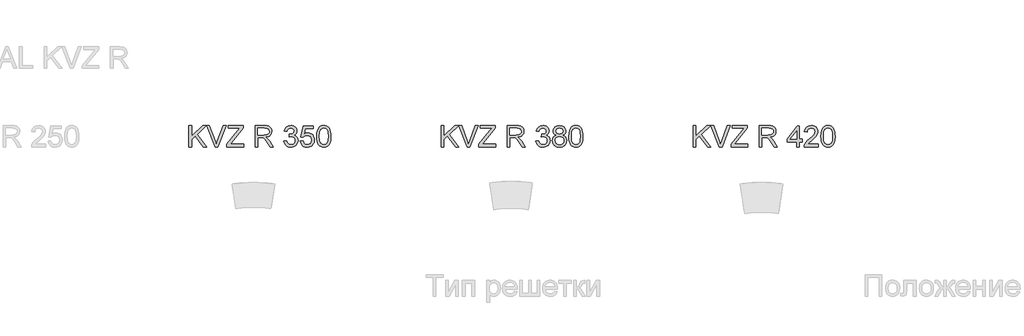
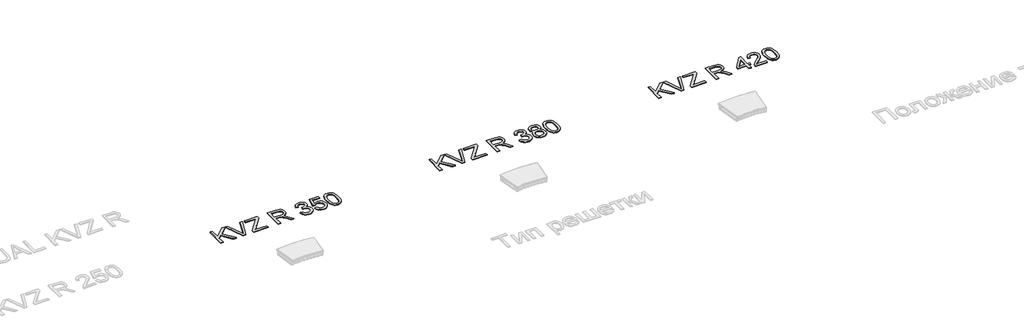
# One storey, part 9 of 9: 3 proxies.
"""IFC4 building model written with IfcOpenShell, lengths in millimetres."""

from ifc_helpers import new_model, si_unit, origin, origin_with_axes, place, context, project, spatial, polyline, outline, extrude, element, save

model = new_model("IFC4")

# Units and contexts
model_context = context("Model", 3, world=origin())
ifc_project = project(units=[si_unit("LENGTHUNIT", "METRE", prefix="MILLI")], contexts=[model_context])

# Site, building, storey
site = spatial("IfcSite", under=ifc_project)
building = spatial("IfcBuilding", under=site)
storey = spatial("IfcBuildingStorey", under=building, Name="Уровень 1", Elevation=0.0)

# Proxies
placement = place(None, origin())
element("IfcBuildingElementProxy", 1, Name="Текст модели 1", ObjectType="Текст модели 1", at=placement, inside=storey, context=model_context, shape_type="SweptSolid", body=[
    extrude(outline(polyline([(4574.2572214, 251.120589), (4574.2572214, 552.4895194), (4611.9283377, 552.4895194), (4611.9283377, 404.9688394), (4766.4387756, 552.4895194), (4819.1194773, 552.4895194), (4689.4042858, 428.5868634), (4823.8283669, 251.120589), (4777.7695411, 251.120589), (4662.696053, 403.1294294), (4611.9283377, 354.7161588), (4611.9283377, 251.120589), (4574.2572214, 251.120589)])), origin_with_axes(), (0.0, 0.0, 1.0), 10.0),
    extrude(outline(polyline([(4941.1091469, 251.120589), (4821.1796165, 552.4895194), (4861.4994832, 552.4895194), (4941.7713345, 335.3655659), (4958.0317187, 286.4372605), (4974.0713737, 335.3655659), (5054.5639543, 552.4895194), (5094.8838209, 552.4895194), (4980.031062, 251.120589), (4941.1091469, 251.120589)])), origin_with_axes(), (0.0, 0.0, 1.0), 10.0),
    extrude(outline(polyline([(5106.3617392, 251.120589), (5106.3617392, 290.1896569), (5260.5042952, 478.9131204), (5289.787702, 514.8184031), (5125.1972973, 514.8184031), (5125.1972973, 552.4895194), (5337.0973266, 552.4895194), (5337.0973266, 514.8184031), (5168.3866436, 308.289451), (5152.4941414, 288.7917053), (5341.8062161, 288.7917053), (5341.8062161, 251.120589), (5106.3617392, 251.120589)])), origin_with_axes(), (0.0, 0.0, 1.0), 10.0),
    extrude(outline(polyline([(5501.9084604, 251.120589), (5501.9084604, 552.4895194), (5631.7708047, 552.4895194), (5666.673609, 550.4569714), (5692.0666637, 544.3593273), (5710.6263104, 533.1021383), (5725.0288905, 515.5909553), (5734.2719256, 493.8767205), (5737.3529373, 470.0103761), (5732.2485746, 440.3222991), (5716.9354866, 415.7109936), (5705.3357074, 405.6816107), (5690.9538207, 397.6663817), (5653.8437244, 387.6783856), (5675.2544565, 371.5651542), (5705.7886621, 332.7903919), (5756.0413427, 251.120589), (5712.2633852, 251.120589), (5673.0471646, 313.5869517), (5644.7202509, 354.936888), (5624.817835, 374.471422), (5606.9019818, 381.6451209), (5585.0497913, 382.969496), (5539.5795767, 382.969496), (5539.5795767, 251.120589), (5501.9084604, 251.120589)]), holes=[polyline([(5539.5795767, 420.6406123), (5623.89813, 420.6406123), (5648.1139623, 421.9741846), (5666.9035352, 425.9749013), (5681.0485979, 432.9094769), (5691.3308997, 443.0446259), (5697.5940907, 455.3042933), (5699.681821, 468.6124245), (5695.6994984, 486.9881302), (5683.7525306, 501.7953805), (5663.1971241, 511.5626475), (5633.3894855, 514.8184031), (5539.5795767, 514.8184031), (5539.5795767, 420.6406123)])]), origin_with_axes(), (0.0, 0.0, 1.0), 10.0),
    extrude(outline(polyline([(5906.8729607, 331.1717111), (5944.544077, 335.8806007), (5952.9777717, 312.2073943), (5965.3294097, 296.2229216), (5982.2059962, 287.1178422), (6004.2145366, 284.0828157), (6030.0398527, 288.2582764), (6049.9790568, 300.7846583), (6062.7261679, 319.4730637), (6066.975205, 342.1345946), (6062.7629561, 363.6464942), (6050.1262096, 381.0932979), (6030.9963459, 392.6539896), (6007.3047454, 396.5075535), (5980.8908181, 392.3872751), (5985.0846729, 430.0583914), (5991.1179376, 429.616933), (6013.687498, 432.3208657), (6033.8658254, 440.4326637), (6048.1028586, 454.1546621), (6052.8485364, 473.6891961), (6049.4088397, 489.9587773), (6039.0897498, 503.1565439), (6023.3444004, 511.9029383), (6003.6259254, 514.8184031), (5983.8706623, 511.8753471), (5967.7206427, 503.0461793), (5955.9300247, 488.3308995), (5949.2529665, 467.7295077), (5911.5818502, 472.4383973), (5922.6734924, 506.2651467), (5942.4103614, 531.5202457), (5969.4128999, 547.247201), (6002.3015502, 552.4895194), (6025.9839537, 549.9051484), (6047.7349766, 542.1520354), (6066.0738941, 529.919959), (6079.519981, 513.8986981), (6087.7697348, 495.440219), (6090.5196527, 475.896488), (6087.9076905, 457.6863293), (6080.071804, 441.1684277), (6067.1223578, 427.0969414), (6049.1697164, 416.2260284), (6072.7509523, 406.6978847), (6090.2253471, 390.4742887), (6101.0410777, 368.4381572), (6104.6463213, 341.472407), (6102.8436995, 322.3609373), (6097.4358342, 304.7577839), (6088.4227253, 288.6629466), (6075.8043729, 274.0764255), (6060.431504, 261.9731078), (6043.1548458, 253.3278809), (6023.9743983, 248.1407448), (6002.8901614, 246.4116994), (5983.8338741, 247.8878259), (5966.4698439, 252.3162055), (5950.7980709, 259.696838), (5936.8185551, 270.0297235), (5925.096915, 282.7078568), (5916.1987693, 297.1242325), (5910.1241178, 313.2788506), (5906.8729607, 331.1717111)])), origin_with_axes(), (0.0, 0.0, 1.0), 10.0),
    extrude(outline(polyline([(6137.6085481, 331.1717111), (6175.2796644, 335.8806007), (6182.1958459, 313.265055), (6194.2623753, 297.0690502), (6211.4240704, 287.3293743), (6233.6257488, 284.0828157), (6260.6282872, 288.5985672), (6280.861797, 302.1458217), (6293.4985435, 323.1610807), (6297.7107924, 350.0808457), (6293.765258, 375.4279151), (6281.9286548, 394.8152963), (6262.1090123, 407.120949), (6234.21436, 411.2228333), (6215.9398219, 409.5857584), (6201.1417686, 404.6745338), (6179.9885539, 387.6783856), (6142.3174376, 392.3872751), (6175.2796644, 547.7806299), (6321.2552401, 547.7806299), (6321.2552401, 510.1095136), (6205.7402936, 510.1095136), (6189.6270622, 427.1153355), (6216.5376301, 443.449296), (6244.7357851, 448.8939496), (6263.0816003, 447.2062909), (6279.9328949, 442.143315), (6295.289669, 433.7050217), (6309.1519224, 421.8914111), (6320.6275414, 407.4244517), (6328.8244121, 391.0261117), (6333.7425345, 372.6963913), (6335.3819087, 352.4352904), (6329.4774026, 314.7641741), (6322.0967701, 297.9703611), (6311.7638846, 282.5377114), (6296.1105057, 266.7325811), (6277.8451646, 255.4432024), (6256.9678614, 248.6695752), (6233.478596, 246.4116994), (6196.4788643, 252.2150379), (6180.8001936, 259.469211), (6167.0023195, 269.6250533), (6155.522102, 282.1767271), (6146.7964009, 296.6183947), (6137.6085481, 331.1717111)])), origin_with_axes(), (0.0, 0.0, 1.0), 10.0),
    extrude(outline(polyline([(6368.3441354, 399.377033), (6371.1124474, 447.6155596), (6379.4173835, 486.0868193), (6393.1761701, 515.3794232), (6412.3060339, 536.0819824), (6436.9449305, 548.3876352), (6467.2308157, 552.4895194), (6490.4441696, 550.0614982), (6511.2295024, 542.7774347), (6528.6119266, 530.9224375), (6541.6165552, 514.7816149), (6551.4390044, 494.4929229), (6559.2748909, 470.1943171), (6564.4068448, 439.3382148), (6566.117496, 399.377033), (6563.3767752, 351.4144179), (6555.1546126, 313.0351288), (6541.4785994, 283.7149337), (6522.3763268, 262.929601), (6497.6822479, 250.5411748), (6467.2308157, 246.4116994), (6446.4822712, 248.2051242), (6428.0881715, 253.5853983), (6412.0485165, 262.552522), (6398.3633062, 275.1064951), (6385.229919, 297.8002156), (6375.8489281, 326.0765455), (6370.2203336, 359.9354846), (6368.3441354, 399.377033)]), holes=[polyline([(6406.0152517, 399.4506094), (6410.4298357, 340.1940171), (6415.9480656, 319.9260184), (6423.6735875, 305.8982181), (6443.3920625, 289.5366663), (6467.2308157, 284.0828157), (6491.069569, 289.5550604), (6510.788044, 305.9717944), (6518.5135659, 320.0225874), (6524.0317958, 340.2859875), (6528.4463797, 399.4506094), (6524.1789486, 457.3736296), (6518.8446597, 477.5749496), (6511.3766552, 491.936143), (6491.6949684, 509.0978381), (6466.7893573, 514.8184031), (6443.2081215, 509.7784198), (6424.2621987, 494.6584698), (6416.2791594, 479.023485), (6410.5769885, 457.9438467), (6406.0152517, 399.4506094)])]), origin_with_axes(), (0.0, 0.0, 1.0), 10.0),
])
element("IfcBuildingElementProxy", 2, Name="Текст модели 1", ObjectType="Текст модели 1", at=placement, inside=storey, context=model_context, shape_type="SweptSolid", body=[
    extrude(outline(polyline([(8113.2063914, 251.120589), (8113.2063914, 552.4895194), (8150.8775077, 552.4895194), (8150.8775077, 404.9688394), (8305.3879457, 552.4895194), (8358.0686474, 552.4895194), (8228.3534559, 428.5868634), (8362.777537, 251.120589), (8316.7187112, 251.120589), (8201.6452231, 403.1294294), (8150.8775077, 354.7161588), (8150.8775077, 251.120589), (8113.2063914, 251.120589)])), origin_with_axes(), (0.0, 0.0, 1.0), 10.0),
    extrude(outline(polyline([(8480.058317, 251.120589), (8360.1287866, 552.4895194), (8400.4486533, 552.4895194), (8480.7205046, 335.3655659), (8496.9808888, 286.4372605), (8513.0205438, 335.3655659), (8593.5131243, 552.4895194), (8633.832991, 552.4895194), (8518.9802321, 251.120589), (8480.058317, 251.120589)])), origin_with_axes(), (0.0, 0.0, 1.0), 10.0),
    extrude(outline(polyline([(8645.3109092, 251.120589), (8645.3109092, 290.1896569), (8799.4534652, 478.9131204), (8828.736872, 514.8184031), (8664.1464674, 514.8184031), (8664.1464674, 552.4895194), (8876.0464966, 552.4895194), (8876.0464966, 514.8184031), (8707.3358136, 308.289451), (8691.4433114, 288.7917053), (8880.7553862, 288.7917053), (8880.7553862, 251.120589), (8645.3109092, 251.120589)])), origin_with_axes(), (0.0, 0.0, 1.0), 10.0),
    extrude(outline(polyline([(9040.8576305, 251.120589), (9040.8576305, 552.4895194), (9170.7199748, 552.4895194), (9205.6227791, 550.4569714), (9231.0158338, 544.3593273), (9249.5754804, 533.1021383), (9263.9780605, 515.5909553), (9273.2210957, 493.8767205), (9276.3021074, 470.0103761), (9271.1977447, 440.3222991), (9255.8846566, 415.7109936), (9244.2848775, 405.6816107), (9229.9029907, 397.6663817), (9192.7928945, 387.6783856), (9214.2036266, 371.5651542), (9244.7378322, 332.7903919), (9294.9905127, 251.120589), (9251.2125553, 251.120589), (9211.9963346, 313.5869517), (9183.669421, 354.936888), (9163.7670051, 374.471422), (9145.8511519, 381.6451209), (9123.9989614, 382.969496), (9078.5287468, 382.969496), (9078.5287468, 251.120589), (9040.8576305, 251.120589)]), holes=[polyline([(9078.5287468, 420.6406123), (9162.8473001, 420.6406123), (9187.0631324, 421.9741846), (9205.8527053, 425.9749013), (9219.997768, 432.9094769), (9230.2800698, 443.0446259), (9236.5432607, 455.3042933), (9238.6309911, 468.6124245), (9234.6486685, 486.9881302), (9222.7017007, 501.7953805), (9202.1462942, 511.5626475), (9172.3386555, 514.8184031), (9078.5287468, 514.8184031), (9078.5287468, 420.6406123)])]), origin_with_axes(), (0.0, 0.0, 1.0), 10.0),
    extrude(outline(polyline([(9445.8221308, 331.1717111), (9483.4932471, 335.8806007), (9491.9269418, 312.2073943), (9504.2785798, 296.2229216), (9521.1551663, 287.1178422), (9543.1637067, 284.0828157), (9568.9890227, 288.2582764), (9588.9282269, 300.7846583), (9601.675338, 319.4730637), (9605.9243751, 342.1345946), (9601.7121262, 363.6464942), (9589.0753797, 381.0932979), (9569.9455159, 392.6539896), (9546.2539154, 396.5075535), (9519.8399882, 392.3872751), (9524.0338429, 430.0583914), (9530.0671076, 429.616933), (9552.6366681, 432.3208657), (9572.8149955, 440.4326637), (9587.0520287, 454.1546621), (9591.7977064, 473.6891961), (9588.3580098, 489.9587773), (9578.0389198, 503.1565439), (9562.2935704, 511.9029383), (9542.5750955, 514.8184031), (9522.8198323, 511.8753471), (9506.6698128, 503.0461793), (9494.8791948, 488.3308995), (9488.2021366, 467.7295077), (9450.5310203, 472.4383973), (9461.6226624, 506.2651467), (9481.3595315, 531.5202457), (9508.3620699, 547.247201), (9541.2507203, 552.4895194), (9564.9331237, 549.9051484), (9586.6841467, 542.1520354), (9605.0230642, 529.919959), (9618.4691511, 513.8986981), (9626.7189048, 495.440219), (9629.4688227, 475.896488), (9626.8568606, 457.6863293), (9619.0209741, 441.1684277), (9606.0715279, 427.0969414), (9588.1188865, 416.2260284), (9611.7001224, 406.6978847), (9629.1745171, 390.4742887), (9639.9902478, 368.4381572), (9643.5954914, 341.472407), (9641.7928696, 322.3609373), (9636.3850043, 304.7577839), (9627.3718954, 288.6629466), (9614.7535429, 274.0764255), (9599.3806741, 261.9731078), (9582.1040159, 253.3278809), (9562.9235683, 248.1407448), (9541.8393315, 246.4116994), (9522.7830441, 247.8878259), (9505.419014, 252.3162055), (9489.747241, 259.696838), (9475.7677252, 270.0297235), (9464.0460851, 282.7078568), (9455.1479393, 297.1242325), (9449.0732879, 313.2788506), (9445.8221308, 331.1717111)])), origin_with_axes(), (0.0, 0.0, 1.0), 10.0),
    extrude(outline(polyline([(9731.4457118, 417.1089452), (9711.2765814, 427.0417591), (9697.1223217, 440.5062401), (9688.7622033, 457.2264768), (9685.9754972, 476.9265576), (9687.4930104, 492.2902294), (9692.0455501, 506.3755113), (9699.6331163, 519.1824033), (9710.2557089, 530.7109053), (9723.4028917, 540.239049), (9738.5642284, 547.0448659), (9774.9293636, 552.4895194), (9811.5152281, 546.9161072), (9826.8421117, 539.9493419), (9840.1916296, 530.1958705), (9851.0073602, 518.4420408), (9858.7328821, 505.4742004), (9863.3681953, 491.2923495), (9864.9132997, 475.896488), (9862.1633817, 456.8310036), (9853.913628, 440.3958755), (9840.0720679, 427.0141679), (9820.546731, 417.1089452), (9843.7324938, 405.1619774), (9860.6090803, 387.568021), (9870.9005791, 365.1732045), (9874.3310787, 338.8236566), (9872.6296245, 320.0340837), (9867.5252618, 302.8080093), (9859.0179907, 287.1454333), (9847.1078111, 273.0463559), (9832.4201224, 261.3936937), (9815.5803241, 253.0703635), (9796.5884161, 248.0763655), (9775.4443984, 246.4116994), (9754.3003808, 248.0832632), (9735.3084728, 253.0979547), (9718.4686744, 261.4557738), (9703.7809858, 273.1567205), (9691.8708062, 287.3546662), (9683.363535, 303.2034824), (9678.2591724, 320.7031691), (9676.5577181, 339.8537262), (9680.1261735, 367.2241466), (9690.8315395, 389.7385248), (9708.1219933, 406.6243083), (9731.4457118, 417.1089452)]), holes=[polyline([(9714.2288344, 341.1781014), (9720.5196166, 312.8143996), (9729.2292228, 300.6467026), (9742.7764773, 291.5876084), (9759.0000732, 285.9590139), (9775.738704, 284.0828157), (9801.3800791, 288.0283501), (9820.6203074, 299.8649533), (9832.6500487, 317.7900035), (9836.6599624, 340.000879), (9832.52129, 362.5888335), (9820.1052726, 380.9093569), (9800.4235859, 393.0494627), (9774.4879052, 397.0961647), (9749.2052151, 393.104645), (9730.1581248, 381.1300861), (9718.211157, 363.1590506), (9714.2288344, 341.1781014)]), polyline([(9723.6466135, 475.8229116), (9726.9851426, 459.3785864), (9737.0007299, 446.2451992), (9753.3990699, 437.6367605), (9775.8858568, 434.767281), (9797.8484119, 437.6183664), (9813.9984315, 446.1716228), (9823.9312454, 458.8635516), (9827.2421834, 474.1306544), (9823.8208808, 489.9771714), (9813.5569731, 503.0829675), (9797.1862243, 511.8845442), (9775.4443984, 514.8184031), (9753.5646168, 511.9489235), (9737.2214591, 503.3404849), (9727.0403249, 490.7221324), (9723.6466135, 475.8229116)])]), origin_with_axes(), (0.0, 0.0, 1.0), 10.0),
    extrude(outline(polyline([(9907.2933055, 399.377033), (9910.0616175, 447.6155596), (9918.3665536, 486.0868193), (9932.1253402, 515.3794232), (9951.2552039, 536.0819824), (9975.8941006, 548.3876352), (10006.1799858, 552.4895194), (10029.3933397, 550.0614982), (10050.1786724, 542.7774347), (10067.5610967, 530.9224375), (10080.5657252, 514.7816149), (10090.3881745, 494.4929229), (10098.224061, 470.1943171), (10103.3560148, 439.3382148), (10105.0666661, 399.377033), (10102.3259452, 351.4144179), (10094.1037827, 313.0351288), (10080.4277695, 283.7149337), (10061.3254969, 262.929601), (10036.631418, 250.5411748), (10006.1799858, 246.4116994), (9985.4314413, 248.2051242), (9967.0373415, 253.5853983), (9950.9976865, 262.552522), (9937.3124763, 275.1064951), (9924.1790891, 297.8002156), (9914.7980982, 326.0765455), (9909.1695037, 359.9354846), (9907.2933055, 399.377033)]), holes=[polyline([(9944.9644218, 399.4506094), (9949.3790058, 340.1940171), (9954.8972357, 319.9260184), (9962.6227576, 305.8982181), (9982.3412325, 289.5366663), (10006.1799858, 284.0828157), (10030.0187391, 289.5550604), (10049.737214, 305.9717944), (10057.4627359, 320.0225874), (10062.9809659, 340.2859875), (10067.3955498, 399.4506094), (10063.1281187, 457.3736296), (10057.7938297, 477.5749496), (10050.3258252, 491.936143), (10030.6441385, 509.0978381), (10005.7385274, 514.8184031), (9982.1572915, 509.7784198), (9963.2113688, 494.6584698), (9955.2283295, 479.023485), (9949.5261585, 457.9438467), (9944.9644218, 399.4506094)])]), origin_with_axes(), (0.0, 0.0, 1.0), 10.0),
])
element("IfcBuildingElementProxy", 3, Name="Текст модели 1", ObjectType="Текст модели 1", at=placement, inside=storey, context=model_context, shape_type="SweptSolid", body=[
    extrude(outline(polyline([(11652.1555615, 251.120589), (11652.1555615, 552.4895194), (11689.8266778, 552.4895194), (11689.8266778, 404.9688394), (11844.3371158, 552.4895194), (11897.0178175, 552.4895194), (11767.302626, 428.5868634), (11901.726707, 251.120589), (11855.6678812, 251.120589), (11740.5943931, 403.1294294), (11689.8266778, 354.7161588), (11689.8266778, 251.120589), (11652.1555615, 251.120589)])), origin_with_axes(), (0.0, 0.0, 1.0), 10.0),
    extrude(outline(polyline([(12019.0074871, 251.120589), (11899.0779567, 552.4895194), (11939.3978233, 552.4895194), (12019.6696747, 335.3655659), (12035.9300589, 286.4372605), (12051.9697139, 335.3655659), (12132.4622944, 552.4895194), (12172.7821611, 552.4895194), (12057.9294022, 251.120589), (12019.0074871, 251.120589)])), origin_with_axes(), (0.0, 0.0, 1.0), 10.0),
    extrude(outline(polyline([(12184.2600793, 251.120589), (12184.2600793, 290.1896569), (12338.4026353, 478.9131204), (12367.6860421, 514.8184031), (12203.0956375, 514.8184031), (12203.0956375, 552.4895194), (12414.9956667, 552.4895194), (12414.9956667, 514.8184031), (12246.2849837, 308.289451), (12230.3924815, 288.7917053), (12419.7045562, 288.7917053), (12419.7045562, 251.120589), (12184.2600793, 251.120589)])), origin_with_axes(), (0.0, 0.0, 1.0), 10.0),
    extrude(outline(polyline([(12579.8068005, 251.120589), (12579.8068005, 552.4895194), (12709.6691448, 552.4895194), (12744.5719491, 550.4569714), (12769.9650038, 544.3593273), (12788.5246505, 533.1021383), (12802.9272306, 515.5909553), (12812.1702657, 493.8767205), (12815.2512774, 470.0103761), (12810.1469148, 440.3222991), (12794.8338267, 415.7109936), (12783.2340476, 405.6816107), (12768.8521608, 397.6663817), (12731.7420645, 387.6783856), (12753.1527967, 371.5651542), (12783.6870023, 332.7903919), (12833.9396828, 251.120589), (12790.1617254, 251.120589), (12750.9455047, 313.5869517), (12722.6185911, 354.936888), (12702.7161751, 374.471422), (12684.800322, 381.6451209), (12662.9481314, 382.969496), (12617.4779168, 382.969496), (12617.4779168, 251.120589), (12579.8068005, 251.120589)]), holes=[polyline([(12617.4779168, 420.6406123), (12701.7964701, 420.6406123), (12726.0123025, 421.9741846), (12744.8018754, 425.9749013), (12758.9469381, 432.9094769), (12769.2292398, 443.0446259), (12775.4924308, 455.3042933), (12777.5801611, 468.6124245), (12773.5978385, 486.9881302), (12761.6508707, 501.7953805), (12741.0954643, 511.5626475), (12711.2878256, 514.8184031), (12617.4779168, 514.8184031), (12617.4779168, 420.6406123)])]), origin_with_axes(), (0.0, 0.0, 1.0), 10.0),
    extrude(outline(polyline([(13107.2024288, 251.120589), (13107.2024288, 321.753932), (12970.6446322, 321.753932), (12970.6446322, 359.4250483), (13116.6202079, 547.7806299), (13144.8735451, 547.7806299), (13144.8735451, 359.4250483), (13182.5446614, 359.4250483), (13182.5446614, 321.753932), (13144.8735451, 321.753932), (13144.8735451, 251.120589), (13107.2024288, 251.120589)]), holes=[polyline([(13107.2024288, 359.4250483), (13107.2024288, 475.8229116), (13016.9977636, 359.4250483), (13107.2024288, 359.4250483)])]), origin_with_axes(), (0.0, 0.0, 1.0), 10.0),
    extrude(outline(polyline([(13408.5713593, 288.7917053), (13408.5713593, 251.120589), (13210.7979987, 251.120589), (13214.8447006, 277.0930578), (13224.133721, 297.3909469), (13237.7269607, 317.0818307), (13257.3902533, 337.6924195), (13284.8894325, 360.7494235), (13325.540393, 396.8570414), (13349.9309692, 423.5100919), (13362.1262574, 445.1415532), (13366.1913534, 466.1844033), (13362.3561836, 485.0475527), (13350.8506742, 500.7285227), (13333.1647473, 511.295933), (13310.7883249, 514.8184031), (13287.2898625, 511.3787065), (13269.0337185, 501.0596165), (13257.2522976, 484.6704736), (13253.1780045, 463.0206182), (13215.5068882, 467.7295077), (13224.6395587, 504.1682194), (13233.1859173, 518.7041567), (13244.3856248, 530.7844817), (13257.9811638, 540.2804357), (13273.7150169, 547.06326), (13311.5976653, 552.4895194), (13331.7874891, 550.9812032), (13349.7562253, 546.4562547), (13365.5038739, 538.9146738), (13379.0304351, 528.3564605), (13389.8944502, 515.5633642), (13397.6544611, 501.3171339), (13402.3104676, 485.6177697), (13403.8624697, 468.4652717), (13402.1886066, 450.448251), (13397.1670174, 432.74393), (13388.2550761, 414.7361063), (13374.9101567, 395.8085777), (13353.6373803, 373.2114261), (13320.941868, 344.1947337), (13277.605369, 307.9583572), (13260.6092208, 288.7917053), (13408.5713593, 288.7917053)])), origin_with_axes(), (0.0, 0.0, 1.0), 10.0),
    extrude(outline(polyline([(13446.2424756, 399.377033), (13449.0107876, 447.6155596), (13457.3157236, 486.0868193), (13471.0745102, 515.3794232), (13490.204374, 536.0819824), (13514.8432706, 548.3876352), (13545.1291559, 552.4895194), (13568.3425098, 550.0614982), (13589.1278425, 542.7774347), (13606.5102668, 530.9224375), (13619.5148953, 514.7816149), (13629.3373446, 494.4929229), (13637.1732311, 470.1943171), (13642.3051849, 439.3382148), (13644.0158362, 399.377033), (13641.2751153, 351.4144179), (13633.0529527, 313.0351288), (13619.3769396, 283.7149337), (13600.274667, 262.929601), (13575.580588, 250.5411748), (13545.1291559, 246.4116994), (13524.3806113, 248.2051242), (13505.9865116, 253.5853983), (13489.9468566, 262.552522), (13476.2616464, 275.1064951), (13463.1282591, 297.8002156), (13453.7472683, 326.0765455), (13448.1186737, 359.9354846), (13446.2424756, 399.377033)]), holes=[polyline([(13483.9135919, 399.4506094), (13488.3281758, 340.1940171), (13493.8464057, 319.9260184), (13501.5719276, 305.8982181), (13521.2904026, 289.5366663), (13545.1291559, 284.0828157), (13568.9679092, 289.5550604), (13588.6863841, 305.9717944), (13596.411906, 320.0225874), (13601.9301359, 340.2859875), (13606.3447199, 399.4506094), (13602.0772887, 457.3736296), (13596.7429998, 477.5749496), (13589.2749953, 491.936143), (13569.5933086, 509.0978381), (13544.6876975, 514.8184031), (13521.1064616, 509.7784198), (13502.1605388, 494.6584698), (13494.1774995, 479.023485), (13488.4753286, 457.9438467), (13483.9135919, 399.4506094)])]), origin_with_axes(), (0.0, 0.0, 1.0), 10.0),
])

save(model, "model.ifc")
